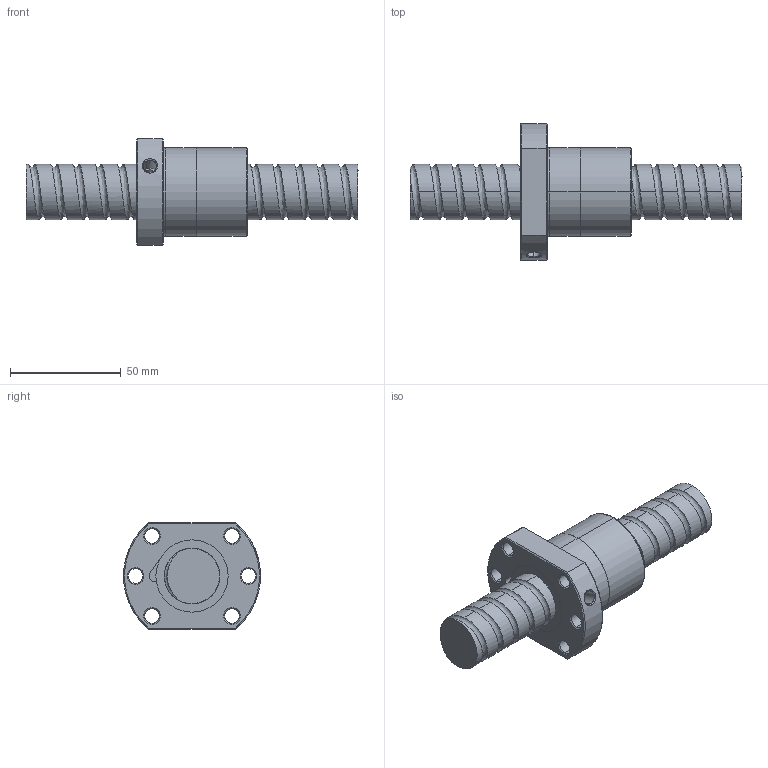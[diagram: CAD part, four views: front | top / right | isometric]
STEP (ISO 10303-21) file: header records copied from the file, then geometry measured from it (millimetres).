
FILE_DESCRIPTION (( 'STEP AP214' ), '1' );
FILE_NAME ('FSDC02510T3-B-C.STEP', '2010-06-25T11:29:57', ( 'XPAUTO' ), ( 'XPAUTO' ), 'SwSTEP 2.0', 'SolidWorks 2007', '' );
FILE_SCHEMA (( 'AUTOMOTIVE_DESIGN' ));
Length unit declared in the file: millimetre
Products named in the file (3): FSDC02510T3-B-C.sldasm-Part-1_預設; FSDC02510T3-B-C.sldasm-Part-2_預設; FSDC02510T3-B-C
Assembly tree (2 placements, depth 2):
  FSDC02510T3-B-C
    FSDC02510T3-B-C.sldasm-Part-1_預設
    FSDC02510T3-B-C.sldasm-Part-2_預設
Bounding box: 150 x 61.8 x 48 mm (x, y, z)
Volume: 121339 mm3; surface area: 30769.4 mm2
Topology: 2 solids, 2 shells, 128 faces, 318 edges, 199 vertices
Faces by surface type: cylinder 71, cone 24, plane 22, torus 6, bspline 5
Entity records: 25275 total; most frequent: CARTESIAN_POINT 22223, ORIENTED_EDGE 636, DIRECTION 596, EDGE_CURVE 318, AXIS2_PLACEMENT_3D 242, VERTEX_POINT 199, EDGE_LOOP 149, ADVANCED_FACE 128
